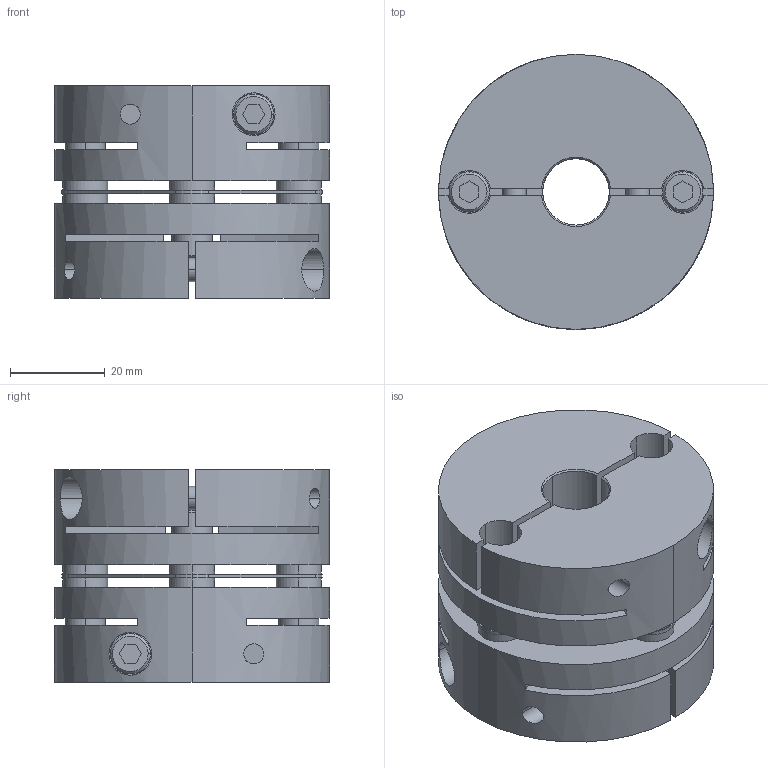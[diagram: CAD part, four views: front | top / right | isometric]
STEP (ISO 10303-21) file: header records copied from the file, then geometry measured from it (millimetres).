
FILE_DESCRIPTION((''),'2;1');
FILE_NAME('LAS-58C-14×15.stp','2015-10-14T15:54:11',(''),(''),'AutoCAD STEP 2000i','AutoCAD 2000i',', , ');
FILE_SCHEMA(('CONFIG_CONTROL_DESIGN'));
Length unit declared in the file: millimetre
Products named in the file (5): LAS-58C-12×12; 忣兜1; LA-5802-D12-1; LA-5802-D12; LAS58-ITA
Assembly tree (4 placements, depth 2):
  LAS-58C-12×12
    忣兜1
    LA-5802-D12-1
    LA-5802-D12
    LAS58-ITA
Bounding box: 58 x 58 x 44.8 mm (x, y, z)
Volume: 88814.3 mm3; surface area: 33874.3 mm2
Topology: 1 solids, 1 shells, 236 faces, 600 edges, 392 vertices
Faces by surface type: plane 112, cylinder 96, cone 28
Entity records: 7859 total; most frequent: CARTESIAN_POINT 1777, DIRECTION 1294, ORIENTED_EDGE 1200, EDGE_CURVE 600, AXIS2_PLACEMENT_3D 477, VERTEX_POINT 392, VECTOR 340, LINE 340
